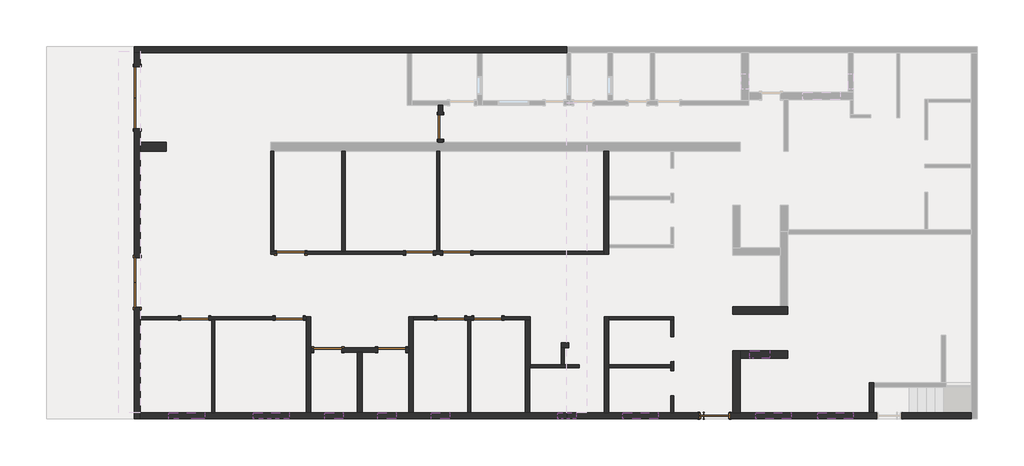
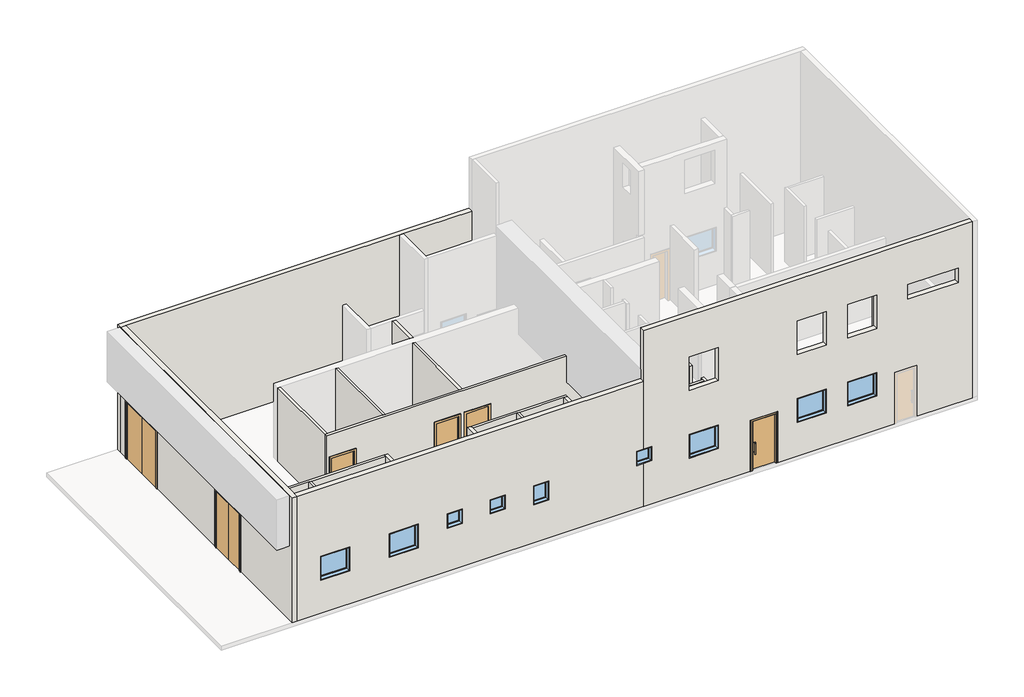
# One storey, part 1 of 2: 33 walls, 13 doors, 10 windows.
"""IFC4 building model written with IfcOpenShell, lengths in millimetres."""

from ifc_helpers import new_model, si_unit, origin, origin_with_axes, place, context, project, spatial, polyline, outline, extrude, faceted_brep, transform, mapped, element, save
from components import door_0800_x_2100mm_8bd717ab, door_0900_x_2100mm_e1aad0e5, door_0900_x_2100mm_4d4a8d81, door_0900_x_2100mm_3c692fa6, door_0900_x_2100mm_0a57bfd5, door_1020_x_2100mm_d07cee32, door_1600_x_2400mm_73c1b3e7, door_2000_x_2400mm_20d38f9c, m_fixo_0600_x_0600mm_83bb7daf, m_fixo_0600_x_0800mm_ca2b4e53, m_fixo_0650_x_1000mm_b2093eee, m_fixo_11500_x_1000mm_5ca4aec9

model = new_model("IFC4")

# Units and contexts
model_context = context("Model", 3, world=origin())
ifc_project = project(units=[si_unit("LENGTHUNIT", "METRE", prefix="MILLI")], contexts=[model_context])

# Site, building, storey
site = spatial("IfcSite", under=ifc_project)
building = spatial("IfcBuilding", under=site)
storey = spatial("IfcBuildingStorey", under=building, Name="01 - Térreo", Elevation=0.0)

# Doors
placement = place(None, origin())
door_0800_x_2100mm_shape = door_0800_x_2100mm_8bd717ab(model_context)
element("IfcDoor", 1, ObjectType="M_Folha única : 0800 x 2100mm", at=placement, inside=storey, context=model_context, shape_type="MappedRepresentation", body=[
    mapped(door_0800_x_2100mm_shape, transform((17982.5501647, 21809.4876324, 0.0), x_axis=(-0.0004905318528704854, -0.9999998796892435, 0.0), y_axis=(0.9999998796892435, -0.0004905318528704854, 0.0), z_axis=(0.0, 0.0, 1.0))),
])
door_0900_x_2100mm_shape = door_0900_x_2100mm_e1aad0e5(model_context)
element("IfcDoor", 2, ObjectType="M_Folha única : 0900 x 2100mm", at=placement, inside=storey, context=model_context, shape_type="MappedRepresentation", body=[
    mapped(door_0900_x_2100mm_shape, transform((19510.9133531, 15652.9281408, 0.0), x_axis=(-1.0, 0.0, 0.0), y_axis=(0.0, -1.0, 0.0), z_axis=(0.0, 0.0, 1.0))),
])
element("IfcDoor", 3, ObjectType="M_Folha única : 0900 x 2100mm", at=placement, inside=storey, context=model_context, shape_type="MappedRepresentation", body=[
    mapped(door_0900_x_2100mm_shape, transform((17306.0819686, 17753.1781408, 0.0), x_axis=(1.0, 0.0, 0.0), y_axis=(0.0, 1.0, 0.0), z_axis=(0.0, 0.0, 1.0))),
])
door_0900_x_2100mm_2_shape = door_0900_x_2100mm_4d4a8d81(model_context)
element("IfcDoor", 4, ObjectType="M_Folha única : 0900 x 2100mm", at=placement, inside=storey, context=model_context, shape_type="MappedRepresentation", body=[
    mapped(door_0900_x_2100mm_2_shape, transform((18307.4126052, 15652.9281408, 0.0), x_axis=(1.0, 0.0, 0.0), y_axis=(0.0, 1.0, 0.0), z_axis=(0.0, 0.0, 1.0))),
])
element("IfcDoor", 5, ObjectType="M_Folha única : 0900 x 2100mm", at=placement, inside=storey, context=model_context, shape_type="MappedRepresentation", body=[
    mapped(door_0900_x_2100mm_2_shape, transform((13106.1547927, 15652.9281408, 0.0), x_axis=(1.0, 0.0, 0.0), y_axis=(0.0, 1.0, 0.0), z_axis=(0.0, 0.0, 1.0))),
])
element("IfcDoor", 6, ObjectType="M_Folha única : 0900 x 2100mm", at=placement, inside=storey, context=model_context, shape_type="MappedRepresentation", body=[
    mapped(door_0900_x_2100mm_2_shape, transform((10058.1672927, 15652.9281408, 0.0), x_axis=(1.0, 0.0, 0.0), y_axis=(0.0, 1.0, 0.0), z_axis=(0.0, 0.0, 1.0))),
])
element("IfcDoor", 7, ObjectType="M_Folha única : 0900 x 2100mm", at=placement, inside=storey, context=model_context, shape_type="MappedRepresentation", body=[
    mapped(door_0900_x_2100mm_2_shape, transform((13157.7969802, 17753.1781408, 0.0), x_axis=(-1.0, 0.0, 0.0), y_axis=(0.0, -1.0, 0.0), z_axis=(0.0, 0.0, 1.0))),
])
element("IfcDoor", 8, ObjectType="M_Folha única : 0900 x 2100mm", at=placement, inside=storey, context=model_context, shape_type="MappedRepresentation", body=[
    mapped(door_0900_x_2100mm_2_shape, transform((18506.1844986, 17753.1781408, 0.0), x_axis=(-1.0, 0.0, 0.0), y_axis=(0.0, -1.0, 0.0), z_axis=(0.0, 0.0, 1.0))),
])
door_0900_x_2100mm_3_shape = door_0900_x_2100mm_3c692fa6(model_context)
element("IfcDoor", 9, ObjectType="M_Folha única : 0900 x 2100mm", at=placement, inside=storey, context=model_context, shape_type="MappedRepresentation", body=[
    mapped(door_0900_x_2100mm_3_shape, transform((16407.6425627, 14628.302475, 0.0), x_axis=(1.0, 0.0, 0.0), y_axis=(0.0, 1.0, 0.0), z_axis=(0.0, 0.0, 1.0))),
])
door_0900_x_2100mm_4_shape = door_0900_x_2100mm_0a57bfd5(model_context)
element("IfcDoor", 10, ObjectType="M_Folha única : 0900 x 2100mm", at=placement, inside=storey, context=model_context, shape_type="MappedRepresentation", body=[
    mapped(door_0900_x_2100mm_4_shape, transform((14356.3992961, 14628.302475, 0.0), x_axis=(-1.0, 0.0, 0.0), y_axis=(0.0, -1.0, 0.0), z_axis=(0.0, 0.0, 1.0))),
])
door_1020_x_2100mm_shape = door_1020_x_2100mm_d07cee32(model_context)
element("IfcDoor", 11, ObjectType="Porta pivotante simples com revestimento : 1020 x 2100mm", at=placement, inside=storey, context=model_context, shape_type="MappedRepresentation", body=[
    mapped(door_1020_x_2100mm_shape, transform((26818.3005485, 12503.5300285, 0.0), x_axis=(0.9999999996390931, -2.686659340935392e-05, 0.0), y_axis=(2.686659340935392e-05, 0.9999999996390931, 0.0), z_axis=(0.0, 0.0, 1.0))),
])
door_1600_x_2400mm_shape = door_1600_x_2400mm_73c1b3e7(model_context)
element("IfcDoor", 12, ObjectType="Porta-Nivelado-Duplo_Painel : 1600 x 2400mm", at=placement, inside=storey, context=model_context, shape_type="MappedRepresentation", body=[
    mapped(door_1600_x_2400mm_shape, transform((8207.9350044, 16802.9297532, 0.0), x_axis=(1.61249314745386e-05, 0.9999999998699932, 0.0), y_axis=(-0.9999999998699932, 1.61249314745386e-05, 0.0), z_axis=(0.0, 0.0, 1.0))),
])
door_2000_x_2400mm_shape = door_2000_x_2400mm_20d38f9c(model_context)
element("IfcDoor", 13, ObjectType="Porta-Nivelado-Duplo_Painel : 2000 x 2400mm", at=placement, inside=storey, context=model_context, shape_type="MappedRepresentation", body=[
    mapped(door_2000_x_2400mm_shape, transform((8208.0310332, 22758.2278079, 0.0), x_axis=(1.61249314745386e-05, 0.9999999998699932, 0.0), y_axis=(-0.9999999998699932, 1.61249314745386e-05, 0.0), z_axis=(0.0, 0.0, 1.0))),
])

# Walls
element("IfcWall", 14, ObjectType="Genérico - 200 mm", at=placement, inside=storey, context=model_context, shape_type="Brep", body=[
    faceted_brep([(8108.0543349, 24203.302475, 0.0), (8308.054335, 24203.302475, 0.0), (16908.0559449, 24203.302475, 0.0), (17058.0559474, 24203.302475, 0.0), (19171.6204029, 24203.302475, 0.0), (19321.620403, 24203.302475, 0.0), (22051.1496531, 24203.302475, 0.0), (22051.1496531, 24203.302475, 5250.0), (19321.620403, 24203.302475, 5250.0), (19171.6204029, 24203.302475, 5250.0), (8308.054335, 24203.302475, 5250.0), (8108.0543349, 24203.302475, 5250.0), (8108.0575599, 24403.302475, 0.0), (8108.0575599, 24403.302475, 5250.0), (22051.1496531, 24403.302475, 5250.0), (22051.1496531, 24403.302475, 0.0)], [[[0, 1, 2, 3, 4, 5, 6, 7, 8, 9, 10, 11]], [[12, 13, 14, 15]], [[6, 5, 4, 3, 2, 1, 0, 12, 15]], [[11, 10, 9, 8, 7, 14, 13]], [[0, 11, 13, 12]], [[7, 6, 15, 14]]]),
])
element("IfcWall", 15, ObjectType="Genérico - 200 mm", at=placement, inside=storey, context=model_context, shape_type="Brep", body=[
    faceted_brep([(8107.8640852, 12404.8171481, 5250.0), (8108.0543349, 24203.302475, 5250.0), (8108.0543349, 24203.302475, 0.0), (8108.0471582, 23758.2294203, 0.0), (8108.0471582, 23758.2294203, 2400.0), (8108.0149083, 21758.2294205, 2400.0), (8108.0149083, 21758.2294205, 0.0), (8107.9479044, 17602.9313656, 0.0), (8107.9479044, 17602.9313656, 2400.0), (8107.9221045, 16002.9313658, 2400.0), (8107.9221045, 16002.9313658, 0.0), (8107.8640852, 12404.8171481, 0.0), (8308.054335, 24203.302475, 5250.0), (8307.8673101, 12604.8117748, 5250.0), (8307.8640851, 12404.8117748, 5250.0), (8307.8640851, 12404.8117748, 0.0), (8307.8673101, 12604.8117748, 0.0), (8307.9156545, 15602.9281408, 0.0), (8307.917267, 15702.9281408, 0.0), (8307.9221045, 16002.9281408, 0.0), (8307.9221045, 16002.9281408, 2400.0), (8307.9479044, 17602.9281406, 2400.0), (8307.9479044, 17602.9281406, 0.0), (8308.0030553, 21023.1531408, 0.0), (8308.0077315, 21313.1531408, 0.0), (8308.0149083, 21758.2261956, 0.0), (8308.0149083, 21758.2261956, 2400.0), (8308.0471581, 23758.2261953, 2400.0), (8308.0471581, 23758.2261953, 0.0), (8308.054335, 24203.302475, 0.0)], [[[0, 1, 2, 3, 4, 5, 6, 7, 8, 9, 10, 11]], [[12, 13, 14, 15, 16, 17, 18, 19, 20, 21, 22, 23, 24, 25, 26, 27, 28, 29]], [[2, 29, 28, 3]], [[15, 11, 10, 19, 18, 17, 16]], [[22, 7, 6, 25, 24, 23]], [[1, 0, 14, 13, 12]], [[2, 1, 12, 29]], [[0, 11, 15, 14]], [[21, 8, 7, 22]], [[8, 21, 20, 9]], [[9, 20, 19, 10]], [[27, 4, 3, 28]], [[4, 27, 26, 5]], [[5, 26, 25, 6]]]),
])
element("IfcWall", 16, ObjectType="Genérico - 200 mm", at=placement, inside=storey, context=model_context, shape_type="Brep", body=[
    faceted_brep([(8307.8640851, 12404.8117748, 0.0), (22050.6829563, 12404.4425521, 0.0), (22050.6829563, 12404.4425521, 1820.0), (21763.1447535, 12404.4502772, 1820.0), (21763.1447536, 12404.4502772, 2420.0), (22050.6829563, 12404.4425521, 2420.0), (22050.6829563, 12404.4425521, 5250.0), (8307.8640851, 12404.8117748, 5250.0), (14256.9848587, 12404.6519422, 1820.0), (14256.9848587, 12404.6519422, 2420.0), (14856.9848585, 12404.6358222, 2420.0), (14856.9848585, 12404.6358222, 1820.0), (15957.6425639, 12404.6062513, 1820.0), (15957.6425639, 12404.6062513, 2420.0), (16557.6425637, 12404.5901314, 2420.0), (16557.6425637, 12404.5901314, 1820.0), (17682.5275845, 12404.5599095, 1600.0), (17682.5275845, 12404.5599095, 2400.0), (18282.5275843, 12404.5437896, 2400.0), (18282.5275843, 12404.5437896, 1600.0), (11957.1329203, 12404.7137314, 1400.0), (11957.1329203, 12404.7137314, 2400.0), (13107.1329199, 12404.6828348, 2400.0), (13107.1329199, 12404.6828348, 1400.0), (9232.9829213, 12404.78692, 1400.0), (9232.9829213, 12404.78692, 2400.0), (10382.9829209, 12404.7560234, 2400.0), (10382.9829209, 12404.7560234, 1400.0), (22050.6883296, 12604.442552, 0.0), (20867.7704861, 12604.474333, 0.0), (20717.7704859, 12604.478363, 0.0), (18957.4126052, 12604.5256578, 0.0), (18857.4126052, 12604.5283444, 0.0), (17107.6425627, 12604.5753548, 0.0), (16957.6425627, 12604.5793848, 0.0), (15457.5704177, 12604.6196866, 0.0), (15307.5704177, 12604.6237166, 0.0), (13806.3992961, 12604.664048, 0.0), (13656.3992961, 12604.6680779, 0.0), (10708.1672927, 12604.7472869, 0.0), (10608.1672927, 12604.7499736, 0.0), (8307.8673101, 12604.8117748, 0.0), (8307.8673101, 12604.8117748, 5250.0), (22050.6883296, 12604.442552, 5250.0), (22050.6883296, 12604.442552, 2420.0), (21763.1501268, 12604.4502772, 2420.0), (21763.1501269, 12604.4502772, 1820.0), (22050.6883296, 12604.442552, 1820.0), (14256.990232, 12604.6519421, 1820.0), (14856.9902318, 12604.6358222, 1820.0), (14856.9902318, 12604.6358222, 2420.0), (14256.990232, 12604.6519421, 2420.0), (15957.6479372, 12604.6062512, 1820.0), (16557.647937, 12604.5901313, 1820.0), (16557.647937, 12604.5901313, 2420.0), (15957.6479372, 12604.6062512, 2420.0), (17682.5329579, 12604.5599094, 1600.0), (18282.5329576, 12604.5437895, 1600.0), (18282.5329576, 12604.5437895, 2400.0), (17682.5329579, 12604.5599094, 2400.0), (11957.1382936, 12604.7137313, 1400.0), (13107.1382932, 12604.6828347, 1400.0), (13107.1382932, 12604.6828347, 2400.0), (11957.1382936, 12604.7137313, 2400.0), (9232.9882946, 12604.7869199, 1400.0), (10382.9882942, 12604.7560233, 1400.0), (10382.9882942, 12604.7560233, 2400.0), (9232.9882946, 12604.7869199, 2400.0), (22050.6883085, 12603.658118, 0.0), (22050.6883085, 12603.658118, 2420.0), (22050.6883085, 12603.658118, 1820.0)], [[[0, 1, 2, 3, 4, 5, 6, 7], [8, 9, 10, 11], [12, 13, 14, 15], [16, 17, 18, 19], [20, 21, 22, 23], [24, 25, 26, 27]], [[28, 29, 30, 31, 32, 33, 34, 35, 36, 37, 38, 39, 40, 41, 42, 43, 44, 45, 46, 47], [48, 49, 50, 51], [52, 53, 54, 55], [56, 57, 58, 59], [60, 61, 62, 63], [64, 65, 66, 67]], [[1, 0, 41, 40, 39, 38, 37, 36, 35, 34, 33, 32, 31, 30, 29, 28, 68]], [[43, 6, 5, 69, 44]], [[1, 68, 28, 47, 70, 2]], [[7, 6, 43, 42]], [[0, 7, 42, 41]], [[9, 8, 48, 51]], [[10, 9, 51, 50]], [[11, 10, 50, 49]], [[8, 11, 49, 48]], [[13, 12, 52, 55]], [[14, 13, 55, 54]], [[15, 14, 54, 53]], [[12, 15, 53, 52]], [[17, 16, 56, 59]], [[18, 17, 59, 58]], [[19, 18, 58, 57]], [[16, 19, 57, 56]], [[21, 20, 60, 63]], [[22, 21, 63, 62]], [[23, 22, 62, 61]], [[20, 23, 61, 60]], [[25, 24, 64, 67]], [[26, 25, 67, 66]], [[27, 26, 66, 65]], [[24, 27, 65, 64]], [[3, 46, 45, 4]], [[4, 45, 44, 69, 5]], [[46, 3, 2, 70, 47]]]),
])
element("IfcWall", 17, ObjectType="Genérico - 200 mm", at=placement, inside=storey, context=model_context, shape_type="Brep", body=[
    faceted_brep([(22050.6883085, 12603.658118, 7400.0), (22051.1496531, 12603.6581056, 7400.0), (22181.1496531, 12603.654613, 7400.0), (35088.0559474, 12603.3078484, 7400.0), (35088.0559474, 12603.3078484, 0.0), (32847.1028772, 12603.3680551, 0.0), (32847.1028772, 12603.3680551, 2100.0), (32047.1028775, 12603.3895484, 2100.0), (32047.1028776, 12603.3895484, 0.0), (31947.1313552, 12603.3922343, 0.0), (31797.1313552, 12603.3962643, 0.0), (27647.6564721, 12603.5077465, 0.0), (27407.6564714, 12603.5141945, 0.0), (27318.303235, 12603.5165951, 0.0), (27318.303235, 12603.5165951, 2100.0), (26318.3032353, 12603.5434617, 2100.0), (26318.3032354, 12603.5434617, 0.0), (25508.2188552, 12603.5652259, 0.0), (25408.2188552, 12603.5679126, 0.0), (23407.9501052, 12603.621653, 0.0), (23257.9501052, 12603.625683, 0.0), (22050.6883085, 12603.658118, 0.0), (22050.6883085, 12603.658118, 1820.0), (22363.1501055, 12603.6497232, 1820.0), (22363.1501055, 12603.6497232, 2420.0), (22050.6883085, 12603.658118, 2420.0), (23858.2013862, 12603.6095563, 1400.0), (25008.2013858, 12603.5786597, 1400.0), (25008.2013858, 12603.5786597, 2400.0), (23858.2013862, 12603.6095563, 2400.0), (28140.8795097, 12603.4944953, 1400.0), (29290.8795092, 12603.4635987, 1400.0), (29290.8795092, 12603.4635987, 2400.0), (28140.8795097, 12603.4944953, 2400.0), (30140.5341964, 12603.4407714, 1400.0), (31290.534196, 12603.4098748, 1400.0), (31290.534196, 12603.4098748, 2400.0), (30140.5341964, 12603.4407714, 2400.0), (23858.2013865, 12603.6095563, 4250.0), (25008.2013861, 12603.5786597, 4250.0), (25008.2013861, 12603.5786597, 5650.0), (23858.2013865, 12603.6095563, 5650.0), (28140.8795089, 12603.4944953, 4250.0), (29290.8795084, 12603.4635987, 4250.0), (29290.8795084, 12603.4635987, 5650.0), (28140.8795089, 12603.4944953, 5650.0), (30140.5341962, 12603.4407714, 4250.0), (31290.5341958, 12603.4098748, 4250.0), (31290.5341958, 12603.4098748, 5650.0), (30140.5341962, 12603.4407714, 5650.0), (34517.5963376, 12603.3231747, 5050.0), (34517.5963376, 12603.3231747, 5650.0), (32517.5963383, 12603.3769078, 5650.0), (32517.5963383, 12603.3769078, 5050.0), (35088.0559474, 12403.3078483, 7400.0), (22050.6829352, 12403.6581181, 7400.0), (22050.6829352, 12403.6581181, 2420.0), (22363.1447322, 12403.6497233, 2420.0), (22363.1447322, 12403.6497233, 1820.0), (22050.6829352, 12403.6581181, 1820.0), (22050.6829352, 12403.6581181, 0.0), (26318.297862, 12403.5434618, 0.0), (26318.2978621, 12403.5434618, 2100.0), (27318.2978617, 12403.5165952, 2100.0), (27318.2978617, 12403.5165952, 0.0), (32047.0975042, 12403.3895485, 0.0), (32047.0975043, 12403.3895485, 2100.0), (32847.0975039, 12403.3680552, 2100.0), (32847.097504, 12403.3680552, 0.0), (35088.0559474, 12403.3078483, 0.0), (23858.1960129, 12403.6095564, 1400.0), (23858.1960129, 12403.6095564, 2400.0), (25008.1960125, 12403.5786598, 2400.0), (25008.1960125, 12403.5786598, 1400.0), (28140.8741363, 12403.4944954, 1400.0), (28140.8741363, 12403.4944954, 2400.0), (29290.8741359, 12403.4635988, 2400.0), (29290.8741359, 12403.4635988, 1400.0), (30140.5288231, 12403.4407715, 1400.0), (30140.5288231, 12403.4407715, 2400.0), (31290.5288227, 12403.4098749, 2400.0), (31290.5288227, 12403.4098749, 1400.0), (23858.1960132, 12403.6095564, 4250.0), (23858.1960132, 12403.6095564, 5650.0), (25008.1960128, 12403.5786598, 5650.0), (25008.1960128, 12403.5786598, 4250.0), (28140.8741355, 12403.4944954, 4250.0), (28140.8741355, 12403.4944954, 5650.0), (29290.8741351, 12403.4635988, 5650.0), (29290.8741351, 12403.4635988, 4250.0), (30140.5288229, 12403.4407715, 4250.0), (30140.5288229, 12403.4407715, 5650.0), (31290.5288225, 12403.4098749, 5650.0), (31290.5288225, 12403.4098749, 4250.0), (34517.5909643, 12403.3231747, 5050.0), (32517.590965, 12403.3769079, 5050.0), (32517.590965, 12403.3769079, 5650.0), (34517.5909643, 12403.3231747, 5650.0), (22050.6829563, 12404.4425521, 0.0), (22050.6829563, 12404.4425521, 2420.0), (22050.6829563, 12404.4425521, 1820.0)], [[[0, 1, 2, 3, 4, 5, 6, 7, 8, 9, 10, 11, 12, 13, 14, 15, 16, 17, 18, 19, 20, 21, 22, 23, 24, 25], [26, 27, 28, 29], [30, 31, 32, 33], [34, 35, 36, 37], [38, 39, 40, 41], [42, 43, 44, 45], [46, 47, 48, 49], [50, 51, 52, 53]], [[54, 55, 56, 57, 58, 59, 60, 61, 62, 63, 64, 65, 66, 67, 68, 69], [70, 71, 72, 73], [74, 75, 76, 77], [78, 79, 80, 81], [82, 83, 84, 85], [86, 87, 88, 89], [90, 91, 92, 93], [94, 95, 96, 97]], [[4, 69, 68, 5]], [[65, 64, 13, 12, 11, 10, 9, 8]], [[60, 98, 21, 20, 19, 18, 17, 16, 61]], [[55, 0, 25, 99, 56]], [[21, 98, 60, 59, 100, 22]], [[3, 2, 1, 0, 55, 54]], [[4, 3, 54, 69]], [[71, 70, 26, 29]], [[72, 71, 29, 28]], [[73, 72, 28, 27]], [[70, 73, 27, 26]], [[75, 74, 30, 33]], [[76, 75, 33, 32]], [[77, 76, 32, 31]], [[74, 77, 31, 30]], [[79, 78, 34, 37]], [[80, 79, 37, 36]], [[81, 80, 36, 35]], [[78, 81, 35, 34]], [[83, 82, 38, 41]], [[84, 83, 41, 40]], [[85, 84, 40, 39]], [[82, 85, 39, 38]], [[87, 86, 42, 45]], [[88, 87, 45, 44]], [[89, 88, 44, 43]], [[86, 89, 43, 42]], [[91, 90, 46, 49]], [[92, 91, 49, 48]], [[93, 92, 48, 47]], [[90, 93, 47, 46]], [[51, 50, 94, 97]], [[52, 51, 97, 96]], [[53, 52, 96, 95]], [[50, 53, 95, 94]], [[24, 57, 56, 99, 25]], [[57, 24, 23, 58]], [[58, 23, 22, 100, 59]], [[63, 14, 13, 64]], [[14, 63, 62, 15]], [[15, 62, 61, 16]], [[7, 66, 65, 8]], [[66, 7, 6, 67]], [[67, 6, 5, 68]]]),
])
element("IfcWall", 18, ObjectType="Genérico - 290 mm", at=placement, inside=storey, context=model_context, shape_type="SweptSolid", body=[
    extrude(outline(polyline([(9153.2110427, 21023.1531408), (8308.0030553, 21023.1531408), (8308.0077315, 21313.1531408), (9153.2110427, 21313.1531408), (9153.2110427, 21023.1531408)])), origin_with_axes(), (0.0, 0.0, 1.0), 3100.0),
])
element("IfcWall", 19, ObjectType="Genérico - 100 mm", at=placement, inside=storey, context=model_context, shape_type="Brep", body=[
    faceted_brep([(10508.1672927, 15602.9281408, 2100.0), (10508.1672927, 15602.9281408, 0.0), (10608.1672927, 15602.9281408, 0.0), (10708.1672927, 15602.9281408, 0.0), (12656.1547927, 15602.9281408, 0.0), (12656.1547927, 15602.9281408, 2100.0), (13556.1547927, 15602.9281408, 2100.0), (13556.1547927, 15602.9281408, 0.0), (13656.1547927, 15602.9281408, 0.0), (13656.1547927, 15602.9281408, 3100.0), (10708.1672927, 15602.9281408, 3100.0), (10608.1672927, 15602.9281408, 3100.0), (8307.9156545, 15602.9281408, 3100.0), (8307.9156545, 15602.9281408, 0.0), (9608.1672927, 15602.9281408, 0.0), (9608.1672927, 15602.9281408, 2100.0), (12656.1547927, 15702.9281408, 0.0), (10508.1672927, 15702.9281408, 0.0), (10508.1672927, 15702.9281408, 2100.0), (9608.1672927, 15702.9281408, 2100.0), (9608.1672927, 15702.9281408, 0.0), (8307.917267, 15702.9281408, 0.0), (8307.917267, 15702.9281408, 3100.0), (13656.1547927, 15702.9281408, 3100.0), (13656.1547927, 15702.9281408, 0.0), (13556.1547927, 15702.9281408, 0.0), (13556.1547927, 15702.9281408, 2100.0), (12656.1547927, 15702.9281408, 2100.0)], [[[0, 1, 2, 3, 4, 5, 6, 7, 8, 9, 10, 11, 12, 13, 14, 15]], [[16, 17, 18, 19, 20, 21, 22, 23, 24, 25, 26, 27]], [[8, 7, 25, 24]], [[14, 13, 21, 20]], [[4, 3, 2, 1, 17, 16]], [[9, 8, 24, 23]], [[12, 11, 10, 9, 23, 22]], [[13, 12, 22, 21]], [[26, 25, 7, 6]], [[27, 26, 6, 5]], [[16, 27, 5, 4]], [[18, 17, 1, 0]], [[19, 18, 0, 15]], [[20, 19, 15, 14]]]),
])
element("IfcWall", 20, ObjectType="Genérico - 150 mm", at=placement, inside=storey, context=model_context, shape_type="Brep", body=[
    faceted_brep([(13656.3992961, 15702.9281408, 0.0), (13656.3992961, 12604.6680779, 0.0), (13656.3992961, 12604.6680779, 3100.0), (13656.3992961, 15702.9281408, 3100.0), (13806.3992961, 15702.9281408, 0.0), (13806.3992961, 15702.9281408, 3100.0), (13806.3992961, 14703.302475, 3100.0), (13806.3992961, 14553.302475, 3100.0), (13806.3992961, 12604.664048, 3100.0), (13806.3992961, 12604.664048, 0.0), (13806.3992961, 14553.302475, 0.0), (13806.3992961, 14703.302475, 0.0)], [[[0, 1, 2, 3]], [[4, 5, 6, 7, 8, 9, 10, 11]], [[1, 0, 4, 11, 10, 9]], [[3, 2, 8, 7, 6, 5]], [[0, 3, 5, 4]], [[2, 1, 9, 8]]]),
])
element("IfcWall", 21, ObjectType="Genérico - 150 mm", at=placement, inside=storey, context=model_context, shape_type="Brep", body=[
    faceted_brep([(13806.3992961, 14553.302475, 0.0), (13906.3992961, 14553.302475, 0.0), (13906.3992961, 14553.302475, 2100.0), (14806.3992961, 14553.302475, 2100.0), (14806.3992961, 14553.302475, 0.0), (15307.5704177, 14553.302475, 0.0), (15457.5704177, 14553.302475, 0.0), (15957.6425627, 14553.302475, 0.0), (15957.6425627, 14553.302475, 2100.0), (16857.6425627, 14553.302475, 2100.0), (16857.6425627, 14553.302475, 0.0), (16957.6425627, 14553.302475, 0.0), (16957.6425627, 14553.302475, 3100.0), (15457.5704177, 14553.302475, 3100.0), (15307.5704177, 14553.302475, 3100.0), (13806.3992961, 14553.302475, 3100.0), (13906.3992961, 14703.302475, 2100.0), (13906.3992961, 14703.302475, 0.0), (13806.3992961, 14703.302475, 0.0), (13806.3992961, 14703.302475, 3100.0), (16957.6425627, 14703.302475, 3100.0), (16957.6425627, 14703.302475, 0.0), (16857.6425627, 14703.302475, 0.0), (16857.6425627, 14703.302475, 2100.0), (15957.6425627, 14703.302475, 2100.0), (15957.6425627, 14703.302475, 0.0), (14806.3992961, 14703.302475, 0.0), (14806.3992961, 14703.302475, 2100.0)], [[[0, 1, 2, 3, 4, 5, 6, 7, 8, 9, 10, 11, 12, 13, 14, 15]], [[16, 17, 18, 19, 20, 21, 22, 23, 24, 25, 26, 27]], [[11, 10, 22, 21]], [[26, 25, 7, 6, 5, 4]], [[18, 17, 1, 0]], [[15, 14, 13, 12, 20, 19]], [[0, 15, 19, 18]], [[12, 11, 21, 20]], [[23, 22, 10, 9]], [[24, 23, 9, 8]], [[25, 24, 8, 7]], [[2, 1, 17, 16]], [[3, 2, 16, 27]], [[4, 3, 27, 26]]]),
])
element("IfcWall", 22, ObjectType="Genérico - 150 mm", at=placement, inside=storey, context=model_context, shape_type="SweptSolid", body=[
    extrude(outline(polyline([(15307.5704177, 12604.6237166), (15307.5704177, 14553.302475), (15457.5704177, 14553.302475), (15457.5704177, 12604.6196866), (15307.5704177, 12604.6237166)])), origin_with_axes(), (0.0, 0.0, 1.0), 3100.0),
])
element("IfcWall", 23, ObjectType="Genérico - 150 mm", at=placement, inside=storey, context=model_context, shape_type="Brep", body=[
    faceted_brep([(17107.6425627, 12604.5753548, 0.0), (17107.6425627, 15602.9281408, 0.0), (17107.6425627, 15702.9281408, 0.0), (17107.6425627, 15702.9281408, 3100.0), (17107.6425627, 15602.9281408, 3100.0), (17107.6425627, 12604.5753548, 3100.0), (16957.6425627, 12604.5793848, 0.0), (16957.6425627, 12604.5793848, 3100.0), (16957.6425627, 14553.302475, 3100.0), (16957.6425627, 14703.302475, 3100.0), (16957.6425627, 15702.9281408, 3100.0), (16957.6425627, 15702.9281408, 0.0), (16957.6425627, 14703.302475, 0.0), (16957.6425627, 14553.302475, 0.0)], [[[0, 1, 2, 3, 4, 5]], [[6, 7, 8, 9, 10, 11, 12, 13]], [[2, 1, 0, 6, 13, 12, 11]], [[5, 4, 3, 10, 9, 8, 7]], [[0, 5, 7, 6]], [[3, 2, 11, 10]]]),
])
element("IfcWall", 24, ObjectType="Genérico - 100 mm", at=placement, inside=storey, context=model_context, shape_type="Brep", body=[
    faceted_brep([(18757.4126052, 15602.9281408, 2100.0), (18757.4126052, 15602.9281408, 0.0), (18857.4126052, 15602.9281408, 0.0), (18957.4126052, 15602.9281408, 0.0), (19060.9133531, 15602.9281408, 0.0), (19060.9133531, 15602.9281408, 2100.0), (19960.9133531, 15602.9281408, 2100.0), (19960.9133531, 15602.9281408, 0.0), (20718.0467338, 15602.9281408, 0.0), (20868.0467344, 15602.9281408, 0.0), (20868.0467344, 15602.9281408, 3100.0), (20718.0467338, 15602.9281408, 3100.0), (18957.4126052, 15602.9281408, 3100.0), (18857.4126052, 15602.9281408, 3100.0), (17107.6425627, 15602.9281408, 3100.0), (17107.6425627, 15602.9281408, 0.0), (17857.4126052, 15602.9281408, 0.0), (17857.4126052, 15602.9281408, 2100.0), (19060.9133531, 15702.9281408, 0.0), (18757.4126052, 15702.9281408, 0.0), (18757.4126052, 15702.9281408, 2100.0), (17857.4126052, 15702.9281408, 2100.0), (17857.4126052, 15702.9281408, 0.0), (17107.6425627, 15702.9281408, 0.0), (17107.6425627, 15702.9281408, 3100.0), (20868.0559474, 15702.9281408, 3100.0), (20868.0559474, 15702.9281408, 0.0), (19960.9133531, 15702.9281408, 0.0), (19960.9133531, 15702.9281408, 2100.0), (19060.9133531, 15702.9281408, 2100.0)], [[[0, 1, 2, 3, 4, 5, 6, 7, 8, 9, 10, 11, 12, 13, 14, 15, 16, 17]], [[18, 19, 20, 21, 22, 23, 24, 25, 26, 27, 28, 29]], [[27, 26, 9, 8, 7]], [[16, 15, 23, 22]], [[4, 3, 2, 1, 19, 18]], [[14, 13, 12, 11, 10, 25, 24]], [[15, 14, 24, 23]], [[10, 9, 26, 25]], [[5, 4, 18, 29]], [[6, 5, 29, 28]], [[7, 6, 28, 27]], [[20, 19, 1, 0]], [[21, 20, 0, 17]], [[22, 21, 17, 16]]]),
])
element("IfcWall", 25, ObjectType="Genérico - 100 mm", at=placement, inside=storey, context=model_context, shape_type="SweptSolid", body=[
    extrude(outline(polyline([(18857.4126052, 12604.5283444), (18857.4126052, 15602.9281408), (18957.4126052, 15602.9281408), (18957.4126052, 12604.5256578), (18857.4126052, 12604.5283444)])), origin_with_axes(), (0.0, 0.0, 1.0), 3100.0),
])
element("IfcWall", 26, ObjectType="Genérico - 100 mm", at=placement, inside=storey, context=model_context, shape_type="Brep", body=[
    faceted_brep([(20867.903967, 14053.3025229, 0.0), (22457.814372, 14052.7343972, 0.0), (22457.814372, 14052.7343972, 3100.0), (20867.903967, 14053.3025229, 3100.0), (20867.9131801, 14153.302526, 0.0), (20867.9131801, 14153.302526, 3100.0), (21868.0559474, 14152.9451431, 3100.0), (21968.0559474, 14152.9094099, 3100.0), (22457.8501052, 14152.7343908, 3100.0), (22457.8501052, 14152.7343908, 0.0), (21968.0559474, 14152.9094099, 0.0), (21868.0559474, 14152.9451431, 0.0)], [[[0, 1, 2, 3]], [[4, 5, 6, 7, 8, 9, 10, 11]], [[1, 0, 4, 11, 10, 9]], [[2, 1, 9, 8]], [[3, 2, 8, 7, 6, 5]], [[0, 3, 5, 4]]]),
])
element("IfcWall", 27, ObjectType="Genérico - 100 mm", at=placement, inside=storey, context=model_context, shape_type="SweptSolid", body=[
    extrude(outline(polyline([(21968.0559474, 14702.8218908), (21968.0559474, 14152.9094099), (21868.0559474, 14152.9451431), (21868.0559474, 14702.8218908), (21968.0559474, 14702.8218908)])), origin_with_axes(), (0.0, 0.0, 1.0), 3100.0),
])
element("IfcWall", 28, ObjectType="Genérico - 150 mm", at=placement, inside=storey, context=model_context, shape_type="Brep", body=[
    faceted_brep([(20718.0467338, 15602.9281408, 0.0), (20717.7704859, 12604.478363, 0.0), (20717.7704859, 12604.478363, 3100.0), (20718.0467338, 15602.9281408, 3100.0), (20868.0467344, 15602.9281408, 0.0), (20868.0467344, 15602.9281408, 3100.0), (20867.9131801, 14153.302526, 3100.0), (20867.903967, 14053.3025229, 3100.0), (20867.7704861, 12604.474333, 3100.0), (20867.7704861, 12604.474333, 0.0), (20867.903967, 14053.3025229, 0.0), (20867.9131801, 14153.302526, 0.0)], [[[0, 1, 2, 3]], [[4, 5, 6, 7, 8, 9, 10, 11]], [[1, 0, 4, 11, 10, 9]], [[3, 2, 8, 7, 6, 5]], [[0, 3, 5, 4]], [[2, 1, 9, 8]]]),
])
element("IfcWall", 29, ObjectType="Genérico - 150 mm", at=placement, inside=storey, context=model_context, shape_type="Brep", body=[
    faceted_brep([(21868.0559474, 14702.8218908, 0.0), (21968.0559474, 14702.8218908, 0.0), (22116.1496531, 14702.8218908, 0.0), (22116.1496531, 14702.8218908, 3100.0), (21968.0559474, 14702.8218908, 3100.0), (21868.0559474, 14702.8218908, 3100.0), (21868.0559474, 14852.8218908, 0.0), (21868.0559474, 14852.8218908, 3100.0), (22116.1496531, 14852.8218908, 3100.0), (22116.1496531, 14852.8218908, 0.0)], [[[0, 1, 2, 3, 4, 5]], [[6, 7, 8, 9]], [[2, 1, 0, 6, 9]], [[3, 2, 9, 8]], [[5, 4, 3, 8, 7]], [[0, 5, 7, 6]]]),
])
element("IfcWall", 30, ObjectType="Genérico - 150 mm", at=placement, inside=storey, context=model_context, shape_type="Brep", body=[
    faceted_brep([(23407.9501052, 12603.621653, 0.0), (23407.9501052, 14053.2748933, 0.0), (23407.9501052, 14153.2748969, 0.0), (23407.9501052, 15602.9281408, 0.0), (23407.9501052, 15702.9281408, 0.0), (23407.9501052, 15702.9281408, 3100.0), (23407.9501052, 15602.9281408, 3100.0), (23407.9501052, 14153.2748969, 3100.0), (23407.9501052, 14053.2748933, 3100.0), (23407.9501052, 12603.621653, 3100.0), (23257.9501052, 12603.625683, 0.0), (23257.9501052, 12603.625683, 3100.0), (23257.9501052, 15702.9281408, 3100.0), (23257.9501052, 15702.9281408, 0.0)], [[[0, 1, 2, 3, 4, 5, 6, 7, 8, 9]], [[10, 11, 12, 13]], [[4, 3, 2, 1, 0, 10, 13]], [[9, 8, 7, 6, 5, 12, 11]], [[0, 9, 11, 10]], [[5, 4, 13, 12]]]),
])
element("IfcWall", 31, ObjectType="Genérico - 100 mm", at=placement, inside=storey, context=model_context, shape_type="SweptSolid", body=[
    extrude(outline(polyline([(25408.1285817, 14052.7344116), (23407.9501052, 14053.2748933), (23407.9501052, 14153.2748969), (25408.0923674, 14152.734425), (25408.1285817, 14052.7344116)])), origin_with_axes(), (0.0, 0.0, 1.0), 3100.0),
])
element("IfcWall", 32, ObjectType="Genérico - 100 mm", at=placement, inside=storey, context=model_context, shape_type="Brep", body=[
    faceted_brep([(25508.1647985, 13952.7456051, 0.0), (25508.0559409, 14253.3386893, 0.0), (25508.0559409, 14253.3386893, 3100.0), (25508.1647985, 13952.7456051, 3100.0), (25408.1648051, 13952.7093908, 0.0), (25408.1648051, 13952.7093908, 3100.0), (25408.1285817, 14052.7344116, 3100.0), (25408.0923674, 14152.734425, 3100.0), (25408.0559474, 14253.302475, 3100.0), (25408.0559474, 14253.302475, 0.0), (25408.0923674, 14152.734425, 0.0), (25408.1285817, 14052.7344116, 0.0)], [[[0, 1, 2, 3]], [[4, 5, 6, 7, 8, 9, 10, 11]], [[1, 0, 4, 11, 10, 9]], [[2, 1, 9, 8]], [[3, 2, 8, 7, 6, 5]], [[0, 3, 5, 4]]]),
])
element("IfcWall", 33, ObjectType="Genérico - 100 mm", at=placement, inside=storey, context=model_context, shape_type="SweptSolid", body=[
    extrude(outline(polyline([(25508.2188552, 13153.8000158), (25508.2188552, 12603.5652259), (25408.2188552, 12603.5679126), (25408.2188552, 13153.8000158), (25508.2188552, 13153.8000158)])), origin_with_axes(), (0.0, 0.0, 1.0), 3100.0),
])
element("IfcWall", 34, ObjectType="Genérico - 100 mm", at=placement, inside=storey, context=model_context, shape_type="Brep", body=[
    faceted_brep([(23407.9501052, 15602.9281408, 0.0), (25408.2313552, 15602.9281408, 0.0), (25508.2313552, 15602.9281408, 0.0), (25508.2313552, 15602.9281408, 3100.0), (25408.2313552, 15602.9281408, 3100.0), (23407.9501052, 15602.9281408, 3100.0), (23407.9501052, 15702.9281408, 0.0), (23407.9501052, 15702.9281408, 3100.0), (25508.2313552, 15702.9281408, 3100.0), (25508.2313552, 15702.9281408, 0.0)], [[[0, 1, 2, 3, 4, 5]], [[6, 7, 8, 9]], [[2, 1, 0, 6, 9]], [[5, 4, 3, 8, 7]], [[0, 5, 7, 6]], [[3, 2, 9, 8]]]),
])
element("IfcWall", 35, ObjectType="Genérico - 100 mm", at=placement, inside=storey, context=model_context, shape_type="SweptSolid", body=[
    extrude(outline(polyline([(25408.2313552, 15052.8468908), (25408.2313552, 15602.9281408), (25508.2313552, 15602.9281408), (25508.2313552, 15052.8468908), (25408.2313552, 15052.8468908)])), origin_with_axes(), (0.0, 0.0, 1.0), 3100.0),
])
element("IfcWall", 36, ObjectType="Genérico - 240 mm", at=placement, inside=storey, context=model_context, shape_type="Brep", body=[
    faceted_brep([(27647.6564721, 12603.5077465, 0.0), (27647.8474906, 14362.8317438, 0.0), (27647.8735485, 14602.8317432, 0.0), (27647.8735485, 14602.8317432, 3100.0), (27647.8474906, 14362.8317438, 3100.0), (27647.6564721, 12603.5077465, 3100.0), (27407.6564714, 12603.5141945, 0.0), (27407.6564714, 12603.5141945, 3100.0), (27407.8735478, 14602.8381911, 3100.0), (27407.8735478, 14602.8381911, 0.0)], [[[0, 1, 2, 3, 4, 5]], [[6, 7, 8, 9]], [[2, 1, 0, 6, 9]], [[5, 4, 3, 8, 7]], [[0, 5, 7, 6]], [[3, 2, 9, 8]]]),
])
element("IfcWall", 37, ObjectType="Genérico - 240 mm", at=placement, inside=storey, context=model_context, shape_type="Brep", body=[
    faceted_brep([(27647.8474906, 14362.8317438, 0.0), (29170.820088, 14362.7908267, 0.0), (29170.820088, 14362.7908267, 3100.0), (27647.8474906, 14362.8317438, 3100.0), (28595.748213, 14362.8062769, 1400.0), (27945.7482132, 14362.8237402, 1400.0), (27945.7482132, 14362.8237402, 2400.0), (28595.748213, 14362.8062769, 2400.0), (27647.8735485, 14602.8317432, 0.0), (27647.8735485, 14602.8317432, 3100.0), (29170.826536, 14602.7908266, 3100.0), (29170.826536, 14602.7908266, 0.0), (28595.754661, 14602.8062768, 1400.0), (28595.754661, 14602.8062768, 2400.0), (27945.7546612, 14602.8237401, 2400.0), (27945.7546612, 14602.8237401, 1400.0)], [[[0, 1, 2, 3], [4, 5, 6, 7]], [[8, 9, 10, 11], [12, 13, 14, 15]], [[1, 0, 8, 11]], [[2, 1, 11, 10]], [[3, 2, 10, 9]], [[0, 3, 9, 8]], [[13, 12, 4, 7]], [[14, 13, 7, 6]], [[15, 14, 6, 5]], [[12, 15, 5, 4]]]),
])
element("IfcWall", 38, ObjectType="Genérico - 240 mm", at=placement, inside=storey, context=model_context, shape_type="Brep", body=[
    faceted_brep([(27407.8735427, 15783.8906408, 0.0), (29177.7376052, 15783.8906408, 0.0), (29177.7376052, 15783.8906408, 3100.0), (27407.8735427, 15783.8906408, 3100.0), (27407.8735427, 16023.8906408, 0.0), (27407.8735427, 16023.8906408, 3100.0), (28937.7376052, 16023.8906408, 3100.0), (29177.7376052, 16023.8906408, 3100.0), (29177.7376052, 16023.8906408, 0.0), (28937.7376052, 16023.8906408, 0.0)], [[[0, 1, 2, 3]], [[4, 5, 6, 7, 8, 9]], [[1, 0, 4, 9, 8]], [[3, 2, 7, 6, 5]], [[0, 3, 5, 4]], [[2, 1, 8, 7]]]),
])
element("IfcWall", 39, ObjectType="Genérico - 150 mm", at=placement, inside=storey, context=model_context, shape_type="Brep", body=[
    faceted_brep([(23251.2115271, 21023.1531408, 0.0), (23251.1250173, 17803.1781408, 0.0), (23251.1223307, 17703.1781408, 0.0), (23251.1223307, 17703.1781408, 3100.0), (23251.1250173, 17803.1781408, 3100.0), (23251.2115271, 21023.1531408, 3100.0), (23401.2115271, 21023.1531408, 0.0), (23401.2115271, 21023.1531408, 3100.0), (23401.172584, 19573.6511968, 3100.0), (23401.1698973, 19473.6511957, 3100.0), (23401.1309314, 18023.3019493, 3100.0), (23401.1282447, 17923.3019488, 3100.0), (23401.1223307, 17703.1781408, 3100.0), (23401.1223307, 17703.1781408, 0.0), (23401.1282447, 17923.3019488, 0.0), (23401.1309314, 18023.3019493, 0.0), (23401.1698973, 19473.6511957, 0.0), (23401.172584, 19573.6511968, 0.0)], [[[0, 1, 2, 3, 4, 5]], [[6, 7, 8, 9, 10, 11, 12, 13, 14, 15, 16, 17]], [[2, 1, 0, 6, 17, 16, 15, 14, 13]], [[5, 4, 3, 12, 11, 10, 9, 8, 7]], [[0, 5, 7, 6]], [[3, 2, 13, 12]]]),
])
element("IfcWall", 40, ObjectType="Genérico - 100 mm", at=placement, inside=storey, context=model_context, shape_type="SweptSolid", body=[
    extrude(outline(polyline([(17858.055954, 17803.1781408), (17857.8829175, 21023.1531408), (17957.8829177, 21023.1531408), (17958.0559541, 17803.1781408), (17858.055954, 17803.1781408)])), origin_with_axes(), (0.0, 0.0, 1.0), 3100.0),
])
element("IfcWall", 41, ObjectType="Genérico - 100 mm", at=placement, inside=storey, context=model_context, shape_type="Brep", body=[
    faceted_brep([(18056.1844986, 17803.1781408, 2100.0), (18056.1844986, 17803.1781408, 0.0), (17958.0559541, 17803.1781408, 0.0), (17858.055954, 17803.1781408, 0.0), (17756.0819686, 17803.1781408, 0.0), (17756.0819686, 17803.1781408, 2100.0), (16856.0819686, 17803.1781408, 2100.0), (16856.0819686, 17803.1781408, 0.0), (14908.0969802, 17803.1781408, 0.0), (14808.0969802, 17803.1781408, 0.0), (13607.7969802, 17803.1781408, 0.0), (13607.7969802, 17803.1781408, 2100.0), (12707.7969802, 17803.1781408, 2100.0), (12707.7969802, 17803.1781408, 0.0), (12607.7969802, 17803.1781408, 0.0), (12507.7969802, 17803.1781408, 0.0), (12507.7969802, 17803.1781408, 3100.0), (12607.7969802, 17803.1781408, 3100.0), (14808.0969802, 17803.1781408, 3100.0), (14908.0969802, 17803.1781408, 3100.0), (17858.055954, 17803.1781408, 3100.0), (17958.0559541, 17803.1781408, 3100.0), (23251.1250173, 17803.1781408, 3100.0), (23251.1250173, 17803.1781408, 0.0), (18956.1844986, 17803.1781408, 0.0), (18956.1844986, 17803.1781408, 2100.0), (17756.0819686, 17703.1781408, 0.0), (18056.1844986, 17703.1781408, 0.0), (18056.1844986, 17703.1781408, 2100.0), (18956.1844986, 17703.1781408, 2100.0), (18956.1844986, 17703.1781408, 0.0), (23251.1223307, 17703.1781408, 0.0), (23251.1223307, 17703.1781408, 3100.0), (12507.7969802, 17703.1781408, 3100.0), (12507.7969802, 17703.1781408, 0.0), (12707.7969802, 17703.1781408, 0.0), (12707.7969802, 17703.1781408, 2100.0), (13607.7969802, 17703.1781408, 2100.0), (13607.7969802, 17703.1781408, 0.0), (16856.0819686, 17703.1781408, 0.0), (16856.0819686, 17703.1781408, 2100.0), (17756.0819686, 17703.1781408, 2100.0)], [[[0, 1, 2, 3, 4, 5, 6, 7, 8, 9, 10, 11, 12, 13, 14, 15, 16, 17, 18, 19, 20, 21, 22, 23, 24, 25]], [[26, 27, 28, 29, 30, 31, 32, 33, 34, 35, 36, 37, 38, 39, 40, 41]], [[15, 14, 13, 35, 34]], [[39, 38, 10, 9, 8, 7]], [[24, 23, 31, 30]], [[4, 3, 2, 1, 27, 26]], [[22, 21, 20, 19, 18, 17, 16, 33, 32]], [[23, 22, 32, 31]], [[16, 15, 34, 33]], [[36, 35, 13, 12]], [[37, 36, 12, 11]], [[38, 37, 11, 10]], [[5, 4, 26, 41]], [[6, 5, 41, 40]], [[7, 6, 40, 39]], [[28, 27, 1, 0]], [[29, 28, 0, 25]], [[30, 29, 25, 24]]]),
])
element("IfcWall", 42, ObjectType="Genérico - 100 mm", at=placement, inside=storey, context=model_context, shape_type="SweptSolid", body=[
    extrude(outline(polyline([(12607.7969802, 21023.1531408), (12607.7969802, 17803.1781408), (12507.7969802, 17803.1781408), (12507.7969802, 21023.1531408), (12607.7969802, 21023.1531408)])), origin_with_axes(), (0.0, 0.0, 1.0), 3100.0),
])
element("IfcWall", 43, ObjectType="Genérico - 100 mm", at=placement, inside=storey, context=model_context, shape_type="SweptSolid", body=[
    extrude(outline(polyline([(14808.0969802, 17803.1781408), (14808.0969802, 21023.1531408), (14908.0969802, 21023.1531408), (14908.0969802, 17803.1781408), (14808.0969802, 17803.1781408)])), origin_with_axes(), (0.0, 0.0, 1.0), 3100.0),
])
element("IfcWall", 44, ObjectType="Genérico - 150 mm", at=placement, inside=storey, context=model_context, shape_type="Brep", body=[
    faceted_brep([(17907.353961, 21409.5244704, 2100.0), (17907.353961, 21409.5244704, 0.0), (17907.3066877, 21313.1531408, 0.0), (17907.3066877, 21313.1531408, 3100.0), (17907.8954088, 22513.3218908, 3100.0), (17907.8954088, 22513.3218908, 0.0), (17907.7463864, 22209.5243741, 0.0), (17907.7463864, 22209.5243741, 2100.0), (18057.3067058, 21313.1531408, 0.0), (18057.3539429, 21409.4508906, 0.0), (18057.3539429, 21409.4508906, 2100.0), (18057.7463684, 22209.4507944, 2100.0), (18057.7463684, 22209.4507944, 0.0), (18057.8954269, 22513.3218908, 0.0), (18057.8954269, 22513.3218908, 3100.0), (18057.3067058, 21313.1531408, 3100.0)], [[[0, 1, 2, 3, 4, 5, 6, 7]], [[8, 9, 10, 11, 12, 13, 14, 15]], [[6, 5, 13, 12]], [[2, 1, 9, 8]], [[4, 3, 15, 14]], [[3, 2, 8, 15]], [[5, 4, 14, 13]], [[10, 9, 1, 0]], [[11, 10, 0, 7]], [[12, 11, 7, 6]]]),
])
element("IfcWall", 45, ObjectType="Genérico - 100 mm", at=placement, inside=storey, context=model_context, shape_type="SweptSolid", body=[
    extrude(outline(polyline([(10608.1672927, 12604.7499736), (10608.1672927, 15602.9281408), (10708.1672927, 15602.9281408), (10708.1672927, 12604.7472869), (10608.1672927, 12604.7499736)])), origin_with_axes(), (0.0, 0.0, 1.0), 3100.0),
])
element("IfcWall", 46, ObjectType="Genérico - 150 mm", at=placement, inside=storey, context=model_context, shape_type="Brep", body=[
    faceted_brep([(31947.1313552, 12603.3922343, 0.0), (31947.1313552, 13423.3334577, 0.0), (31947.1313552, 13573.3334577, 0.0), (31947.1313552, 13573.3334577, 3100.0), (31947.1313552, 13573.3334577, 3250.0), (31947.1313552, 13573.3334577, 5950.0), (31947.1313552, 13423.3334577, 5950.0), (31947.1313552, 12603.3922343, 5950.0), (31797.1313552, 12603.3962643, 0.0), (31797.1313552, 12603.3962643, 5950.0), (31797.1313552, 13573.3334577, 5950.0), (31797.1313552, 13573.3334577, 0.0)], [[[0, 1, 2, 3, 4, 5, 6, 7]], [[8, 9, 10, 11]], [[2, 1, 0, 8, 11]], [[0, 7, 9, 8]], [[2, 11, 10, 5, 4, 3]], [[7, 6, 5, 10, 9]]]),
])

# Windows
m_fixo_0600_x_0600mm_shape = m_fixo_0600_x_0600mm_83bb7daf(model_context)
element("IfcWindow", 47, ObjectType="M_Fixo : 0600 x 0600mm", at=placement, inside=storey, context=model_context, shape_type="MappedRepresentation", body=[
    mapped(m_fixo_0600_x_0600mm_shape, transform((14556.987196, 12491.6438822, 905.0), x_axis=(0.9999999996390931, -2.6866593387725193e-05, 0.0), y_axis=(2.6866593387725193e-05, 0.9999999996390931, 0.0), z_axis=(0.0, 0.0, 1.0))),
])
element("IfcWindow", 48, ObjectType="M_Fixo : 0600 x 0600mm", at=placement, inside=storey, context=model_context, shape_type="MappedRepresentation", body=[
    mapped(m_fixo_0600_x_0600mm_shape, transform((16257.6449012, 12491.5981913, 905.0), x_axis=(0.9999999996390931, -2.6866593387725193e-05, 0.0), y_axis=(2.6866593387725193e-05, 0.9999999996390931, 0.0), z_axis=(0.0, 0.0, 1.0))),
])
element("IfcWindow", 49, ObjectType="M_Fixo : 0600 x 0600mm", at=placement, inside=storey, context=model_context, shape_type="MappedRepresentation", body=[
    mapped(m_fixo_0600_x_0600mm_shape, transform((22063.1470697, 12490.6577832, 905.0), x_axis=(0.9999999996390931, -2.686659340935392e-05, 0.0), y_axis=(2.686659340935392e-05, 0.9999999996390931, 0.0), z_axis=(0.0, 0.0, 1.0))),
])
m_fixo_0600_x_0800mm_shape = m_fixo_0600_x_0800mm_ca2b4e53(model_context)
element("IfcWindow", 50, ObjectType="M_Fixo : 0600 x 0800mm", at=placement, inside=storey, context=model_context, shape_type="MappedRepresentation", body=[
    mapped(m_fixo_0600_x_0800mm_shape, transform((17982.5299218, 12491.5518495, 0.0), x_axis=(0.9999999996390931, -2.6866593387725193e-05, 0.0), y_axis=(2.6866593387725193e-05, 0.9999999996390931, 0.0), z_axis=(0.0, 0.0, 1.0))),
])
m_fixo_0650_x_1000mm_shape = m_fixo_0650_x_1000mm_b2093eee(model_context)
element("IfcWindow", 51, ObjectType="M_Fixo : 0650 x 1000mm", at=placement, inside=storey, context=model_context, shape_type="MappedRepresentation", body=[
    mapped(m_fixo_0650_x_1000mm_shape, transform((28270.7517864, 14495.8150085, 0.0), x_axis=(-0.999999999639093, 2.6866593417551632e-05, 0.0), y_axis=(-2.6866593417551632e-05, -0.999999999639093, 0.0), z_axis=(0.0, 0.0, 1.0))),
])
m_fixo_11500_x_1000mm_shape = m_fixo_11500_x_1000mm_5ca4aec9(model_context)
element("IfcWindow", 52, ObjectType="M_Fixo : 11500 x 1000mm", at=placement, inside=storey, context=model_context, shape_type="MappedRepresentation", body=[
    mapped(m_fixo_11500_x_1000mm_shape, transform((24433.1983501, 12490.594108, 0.0), x_axis=(0.9999999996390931, -2.686659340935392e-05, 0.0), y_axis=(2.686659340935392e-05, 0.9999999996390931, 0.0), z_axis=(0.0, 0.0, 1.0))),
])
element("IfcWindow", 53, ObjectType="M_Fixo : 11500 x 1000mm", at=placement, inside=storey, context=model_context, shape_type="MappedRepresentation", body=[
    mapped(m_fixo_11500_x_1000mm_shape, transform((28715.8764735, 12490.4790471, 0.0), x_axis=(0.9999999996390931, -2.686659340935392e-05, 0.0), y_axis=(2.686659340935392e-05, 0.9999999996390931, 0.0), z_axis=(0.0, 0.0, 1.0))),
])
element("IfcWindow", 54, ObjectType="M_Fixo : 11500 x 1000mm", at=placement, inside=storey, context=model_context, shape_type="MappedRepresentation", body=[
    mapped(m_fixo_11500_x_1000mm_shape, transform((30715.5311603, 12490.4253232, 0.0), x_axis=(0.9999999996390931, -2.686659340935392e-05, 0.0), y_axis=(2.686659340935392e-05, 0.9999999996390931, 0.0), z_axis=(0.0, 0.0, 1.0))),
])
element("IfcWindow", 55, ObjectType="M_Fixo : 11500 x 1000mm", at=placement, inside=storey, context=model_context, shape_type="MappedRepresentation", body=[
    mapped(m_fixo_11500_x_1000mm_shape, transform((12532.1352575, 12491.698283, 0.0), x_axis=(0.9999999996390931, -2.6866593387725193e-05, 0.0), y_axis=(2.6866593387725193e-05, 0.9999999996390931, 0.0), z_axis=(0.0, 0.0, 1.0))),
])
element("IfcWindow", 56, ObjectType="M_Fixo : 11500 x 1000mm", at=placement, inside=storey, context=model_context, shape_type="MappedRepresentation", body=[
    mapped(m_fixo_11500_x_1000mm_shape, transform((9807.9852585, 12491.7714717, 0.0), x_axis=(0.9999999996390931, -2.6866593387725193e-05, 0.0), y_axis=(2.6866593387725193e-05, 0.9999999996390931, 0.0), z_axis=(0.0, 0.0, 1.0))),
])

save(model, "model.ifc")
